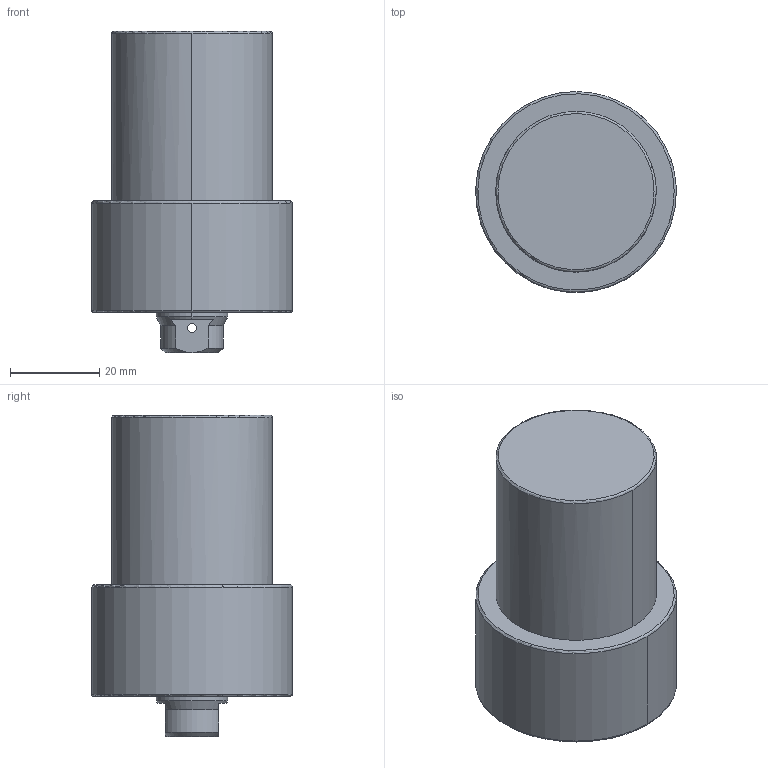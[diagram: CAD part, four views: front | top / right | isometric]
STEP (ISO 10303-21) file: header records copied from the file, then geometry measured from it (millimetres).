
FILE_DESCRIPTION((' '),'2;1');
FILE_NAME( 'TLLU-036GB-030.STEP.stp', '2025-10-24T16:37:05', (' '), ('--- Datakit www.datakit.com---'), ' Datakit CrossCadWare V2024.1 Dec 21 2023', 'Mastercam 2025', ' ');
FILE_SCHEMA(('AUTOMOTIVE_DESIGN { 1 0 10303 214 1 1 1 1 }'));
Length unit declared in the file: millimetre
Products named in the file (1): TLLU-036GB-030
Bounding box: 44.99 x 45 x 72 mm (x, y, z)
Volume: 78823.7 mm3; surface area: 12162.1 mm2
Topology: 1 solids, 1 shells, 66 faces, 192 edges, 125 vertices
Faces by surface type: cylinder 26, cone 24, plane 10, torus 6
Entity records: 2820 total; most frequent: CARTESIAN_POINT 1010, DIRECTION 412, ORIENTED_EDGE 364, EDGE_CURVE 182, AXIS2_PLACEMENT_3D 179, VERTEX_POINT 125, CIRCLE 112, EDGE_LOOP 77
